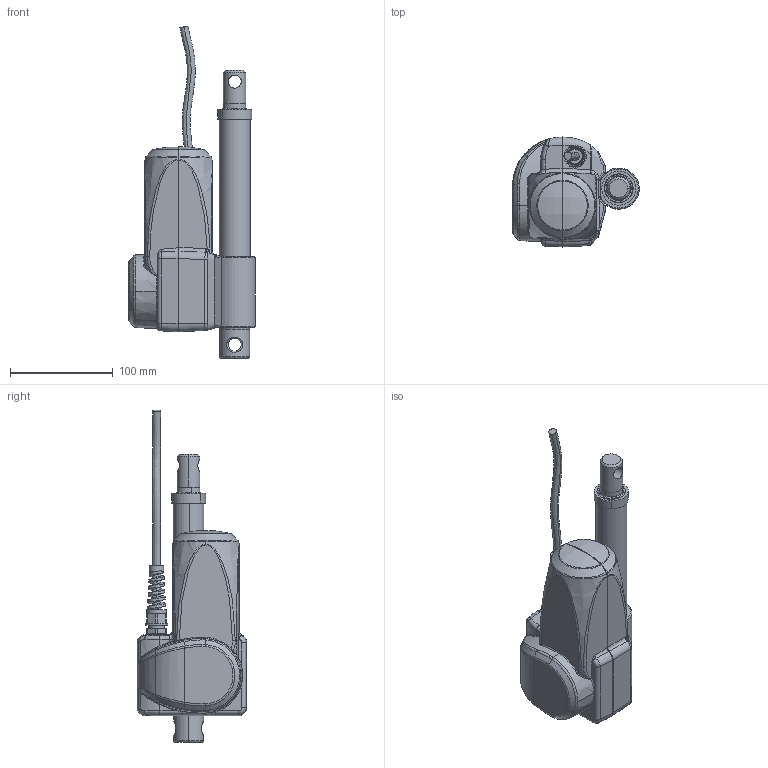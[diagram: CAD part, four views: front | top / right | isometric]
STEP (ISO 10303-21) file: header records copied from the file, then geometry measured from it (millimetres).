
FILE_DESCRIPTION (( 'STEP AP203' ), '1' );
FILE_NAME ('MD52-100.STEP', '2014-06-18T08:31:31', ( '' ), ( '' ), 'SwSTEP 2.0', 'SolidWorks 2012', '' );
FILE_SCHEMA (( 'CONFIG_CONTROL_DESIGN' ));
Length unit declared in the file: millimetre
Products named in the file (3): MD52-100; MD52-tube; MD52-Boby
Assembly tree (2 placements, depth 2):
  MD52-100
    MD52-Boby
    MD52-tube
Bounding box: 123.1 x 107 x 323.14 mm (x, y, z)
Surface area: 152730.2 mm2 (no closed solid volume)
Topology: 0 solids, 10 shells, 342 faces, 882 edges, 536 vertices
Faces by surface type: bspline 163, cylinder 90, plane 68, cone 21
Entity records: 24548 total; most frequent: CARTESIAN_POINT 17239, ORIENTED_EDGE 1654, DIRECTION 1163, EDGE_CURVE 870, VERTEX_POINT 536, AXIS2_PLACEMENT_3D 474, EDGE_LOOP 358, ADVANCED_FACE 342
